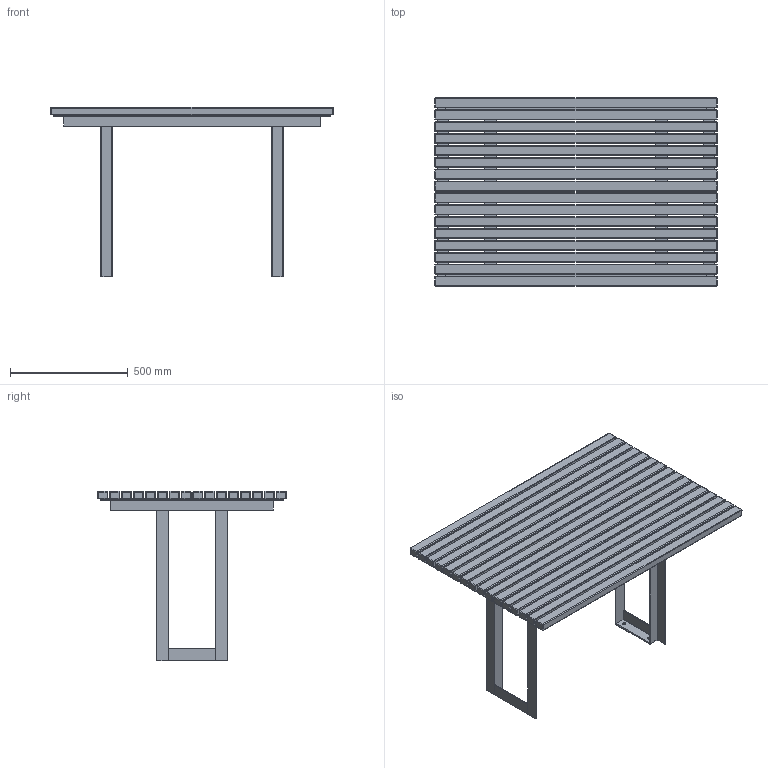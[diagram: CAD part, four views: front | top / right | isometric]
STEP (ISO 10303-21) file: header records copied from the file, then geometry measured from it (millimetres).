
FILE_DESCRIPTION(/* description */ (''),/* implementation_level */ '2;1');
FILE_NAME(/* name */ 'ENV03-A1_UAP_ENVIRON_Table_3D',/* time_stamp */ '2018-01-23T21:23:36-05:00',/* author */ (''),/* organization */ (''),/* preprocessor_version */ 'ST-DEVELOPER v15',/* originating_system */ '',/* authorisation */ '');
FILE_SCHEMA (('AUTOMOTIVE_DESIGN'));
Length unit declared in the file: millimetre
Products named in the file (1): Document
Bounding box: 1200 x 799.5 x 720 mm (x, y, z)
Volume: 27770311.3 mm3; surface area: 4395025.4 mm2
Topology: 24 solids, 30 shells, 706 faces, 1634 edges, 854 vertices
Faces by surface type: bspline 508, plane 198
Entity records: 18507 total; most frequent: CARTESIAN_POINT 9309, ORIENTED_EDGE 2970, EDGE_CURVE 1506, VERTEX_POINT 854, EDGE_LOOP 786, ADVANCED_FACE 706, FACE_OUTER_BOUND 706, B_SPLINE_CURVE_WITH_KNOTS 638
